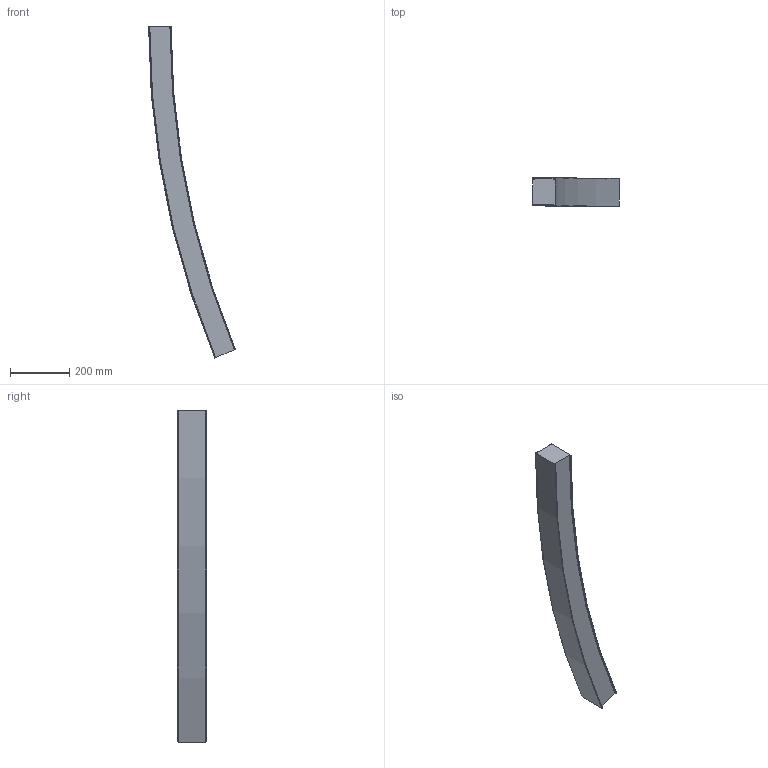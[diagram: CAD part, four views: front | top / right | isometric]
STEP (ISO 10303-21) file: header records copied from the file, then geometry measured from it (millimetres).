
FILE_DESCRIPTION (( 'STEP AP214' ), '1' );
FILE_NAME ('Swerve SM R2900 22.5Deg.STEP', '2019-05-29T02:53:23', ( 'admin' ), ( 'Hewlett-Packard Company' ), 'SwSTEP 2.0', 'SolidWorks 2017', '' );
FILE_SCHEMA (( 'AUTOMOTIVE_DESIGN' ));
Length unit declared in the file: millimetre
Products named in the file (1): Swerve SM R2900 22.5Deg
Bounding box: 294.05 x 95.1 x 1124.36 mm (x, y, z)
Volume: 7701351.8 mm3; surface area: 434401.8 mm2
Topology: 1 solids, 1 shells, 46 faces, 132 edges, 88 vertices
Faces by surface type: torus 24, plane 10, cone 8, cylinder 4
Entity records: 1602 total; most frequent: DIRECTION 318, CARTESIAN_POINT 267, ORIENTED_EDGE 264, AXIS2_PLACEMENT_3D 139, EDGE_CURVE 132, CIRCLE 92, VERTEX_POINT 88, EDGE_LOOP 46
